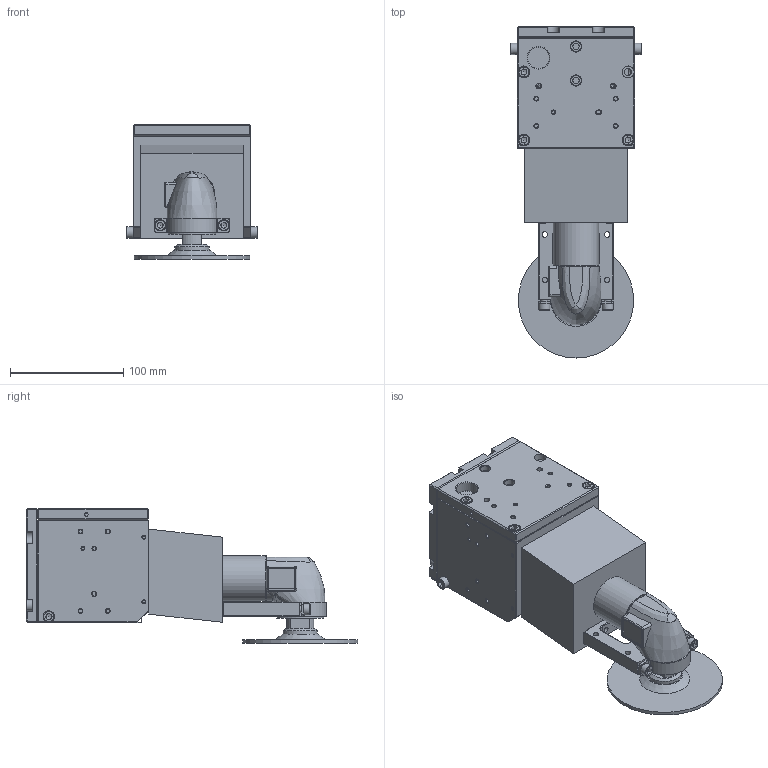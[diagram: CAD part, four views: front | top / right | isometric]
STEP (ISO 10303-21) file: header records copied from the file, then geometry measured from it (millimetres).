
FILE_DESCRIPTION(/* description */ (''),/* implementation_level */ '2;1');
FILE_NAME(/* name */ '\\Ds713\02.研發專案\T_機構研發\3_T3000系列_浮動工具\PC100(\X2\8F15781478E86C2352D578028F2A6A5F\X0\)\3.CAD_PC101\匯入的元件\PC101\PC101.stp',/* time_stamp */ '2020-03-25T14:29:45+08:00',/* author */ ('PC-acer'),/* organization */ (''),/* preprocessor_version */ 'ST-DEVELOPER v15.2',/* originating_system */ 'Autodesk Inventor 2014',/* authorisation */ '');
FILE_SCHEMA (('AUTOMOTIVE_DESIGN { 1 0 10303 214 3 1 1 }'));
Length unit declared in the file: millimetre
Products named in the file (2): PC101_Substitute_2; PC101
Bounding box: 115.8 x 292.36 x 118.5 mm (x, y, z)
Volume: 1727254.2 mm3; surface area: 156344.5 mm2
Topology: 1 solids, 2 shells, 764 faces, 1790 edges, 1085 vertices
Faces by surface type: plane 497, cylinder 152, cone 100, bspline 15
Full cylindrical faces by diameter (mm): 2.459 x6, 3 x4, 3.242 x22, 4.917 x10, 5.5 x2, 6 x2, 6.5 x6, 6.6 x2, 8 x4, 9 x2, 10 x8, 10.5 x4, 19 x1, 30 x1, 40 x2, 40.2 x1, 41.5 x1, 101.6 x1
Entity records: 21864 total; most frequent: CARTESIAN_POINT 4376, DIRECTION 3504, ORIENTED_EDGE 3150, EDGE_CURVE 1574, AXIS2_PLACEMENT_3D 1232, LINE 1040, VECTOR 1040, VERTEX_POINT 1025
